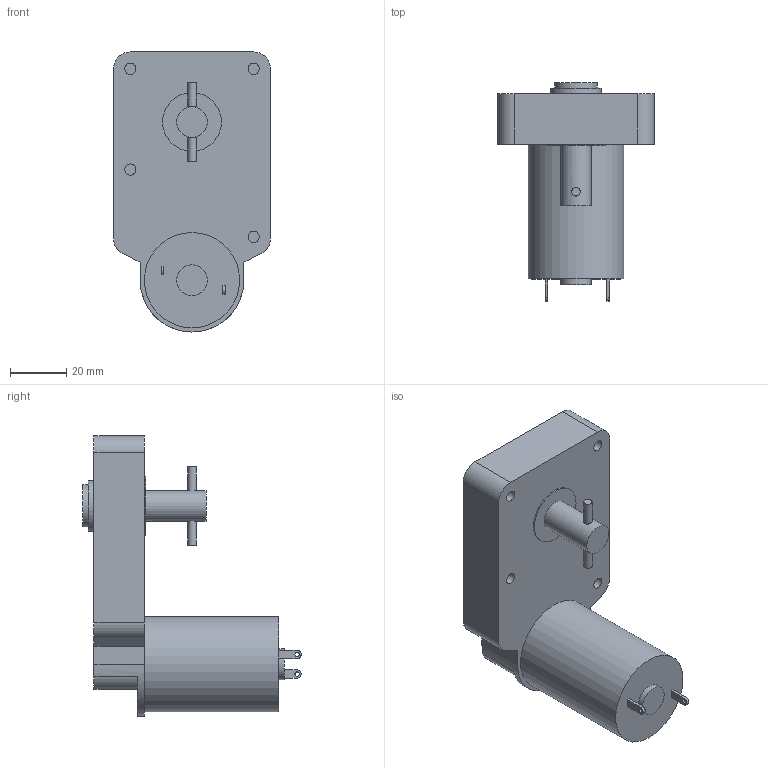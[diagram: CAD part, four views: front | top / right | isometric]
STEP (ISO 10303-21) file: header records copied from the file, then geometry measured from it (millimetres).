
FILE_DESCRIPTION((''),'2;1');
FILE_NAME('E:\2공장-도면\3D\표준형 3D(민규)\1공장 step\KGP-3448(INSERT TYPE).stp','2015-02-26T14:04:23',('AHN'),(''),'Autodesk Inventor 2012','Autodesk Inventor 2012','');
FILE_SCHEMA(('CONFIG_CONTROL_DESIGN'));
Length unit declared in the file: millimetre
Products named in the file (1): KGP-3448(1)
Bounding box: 56 x 78 x 100 mm (x, y, z)
Volume: 131707 mm3; surface area: 21541.9 mm2
Topology: 1 solids, 1 shells, 54 faces, 114 edges, 76 vertices
Faces by surface type: plane 31, cylinder 23
Full cylindrical faces by diameter (mm): 1.5 x2, 3 x2, 4 x4, 11 x2, 15 x1, 18.2 x1, 21 x1, 34 x1
Entity records: 1490 total; most frequent: CARTESIAN_POINT 297, DIRECTION 254, ORIENTED_EDGE 200, AXIS2_PLACEMENT_3D 101, EDGE_CURVE 100, EDGE_LOOP 86, VERTEX_POINT 76, FACE_OUTER_BOUND 54
